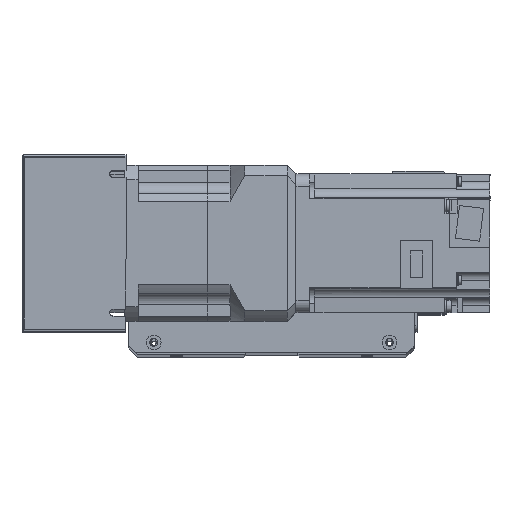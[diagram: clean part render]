
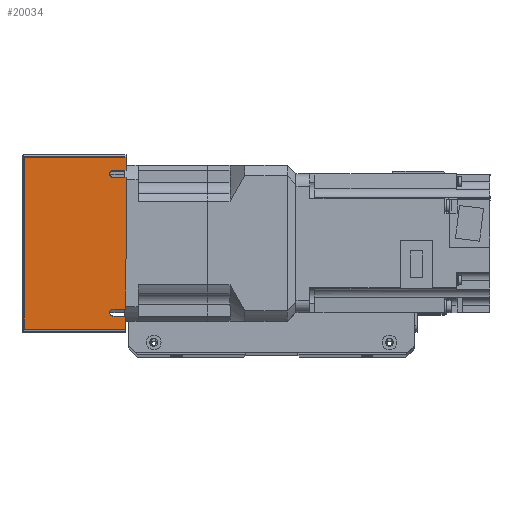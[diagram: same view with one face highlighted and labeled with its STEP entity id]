
A CAD part, top view. The second image highlights one B-rep face of the part: STEP entity #20034.
In plain terms, the highlighted planar face has unit normal (0, 0, 1) as drawn and (-1, 0, 0) by its records, which use the part's own axes.
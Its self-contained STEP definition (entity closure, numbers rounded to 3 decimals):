
#583=PLANE('',#21820);
#1671=LINE('',#32127,#3331);
#1677=LINE('',#32141,#3337);
#1689=LINE('',#32168,#3349);
#1699=LINE('',#32190,#3359);
#1707=LINE('',#32210,#3367);
#1708=LINE('',#32212,#3368);
#1709=LINE('',#32214,#3369);
#1710=LINE('',#32216,#3370);
#1711=LINE('',#32217,#3371);
#1712=LINE('',#32219,#3372);
#3331=VECTOR('',#25996,10.);
#3337=VECTOR('',#26006,10.);
#3349=VECTOR('',#26024,10.);
#3359=VECTOR('',#26038,10.);
#3367=VECTOR('',#26060,10.);
#3368=VECTOR('',#26061,10.);
#3369=VECTOR('',#26062,10.);
#3370=VECTOR('',#26063,10.);
#3371=VECTOR('',#26064,10.);
#3372=VECTOR('',#26067,10.);
#5357=FACE_OUTER_BOUND('',#6789,.T.);
#6789=EDGE_LOOP('',(#16126,#16127,#16128,#16129,#16130,#16131,#16132,#16133,
#16134,#16135,#16136,#16137));
#8221=CIRCLE('',#21815,2.);
#8225=CIRCLE('',#21821,2.);
#9654=VERTEX_POINT('',#32124);
#9655=VERTEX_POINT('',#32126);
#9660=VERTEX_POINT('',#32139);
#9661=VERTEX_POINT('',#32140);
#9672=VERTEX_POINT('',#32166);
#9673=VERTEX_POINT('',#32167);
#9682=VERTEX_POINT('',#32187);
#9683=VERTEX_POINT('',#32189);
#9688=VERTEX_POINT('',#32209);
#9689=VERTEX_POINT('',#32211);
#9690=VERTEX_POINT('',#32213);
#9691=VERTEX_POINT('',#32215);
#12001=EDGE_CURVE('',#9655,#9654,#1671,.T.);
#12007=EDGE_CURVE('',#9660,#9661,#1677,.T.);
#12019=EDGE_CURVE('',#9672,#9673,#1689,.T.);
#12029=EDGE_CURVE('',#9683,#9682,#1699,.T.);
#12031=EDGE_CURVE('',#9661,#9655,#8221,.T.);
#12041=EDGE_CURVE('',#9688,#9654,#1707,.T.);
#12042=EDGE_CURVE('',#9689,#9688,#1708,.T.);
#12043=EDGE_CURVE('',#9690,#9689,#1709,.T.);
#12044=EDGE_CURVE('',#9691,#9690,#1710,.T.);
#12045=EDGE_CURVE('',#9672,#9691,#1711,.T.);
#12046=EDGE_CURVE('',#9673,#9683,#8225,.T.);
#12047=EDGE_CURVE('',#9660,#9682,#1712,.T.);
#16126=ORIENTED_EDGE('',*,*,#12001,.T.);
#16127=ORIENTED_EDGE('',*,*,#12041,.F.);
#16128=ORIENTED_EDGE('',*,*,#12042,.F.);
#16129=ORIENTED_EDGE('',*,*,#12043,.F.);
#16130=ORIENTED_EDGE('',*,*,#12044,.F.);
#16131=ORIENTED_EDGE('',*,*,#12045,.F.);
#16132=ORIENTED_EDGE('',*,*,#12019,.T.);
#16133=ORIENTED_EDGE('',*,*,#12046,.T.);
#16134=ORIENTED_EDGE('',*,*,#12029,.T.);
#16135=ORIENTED_EDGE('',*,*,#12047,.F.);
#16136=ORIENTED_EDGE('',*,*,#12007,.T.);
#16137=ORIENTED_EDGE('',*,*,#12031,.T.);
#20034=ADVANCED_FACE('',(#5357),#583,.T.);
#21815=AXIS2_PLACEMENT_3D('',#32193,#26042,#26043);
#21820=AXIS2_PLACEMENT_3D('',#32208,#26058,#26059);
#21821=AXIS2_PLACEMENT_3D('',#32218,#26065,#26066);
#25996=DIRECTION('',(0.,0.,1.));
#26006=DIRECTION('',(0.,0.,-1.));
#26024=DIRECTION('',(0.,0.,-1.));
#26038=DIRECTION('',(0.,0.,1.));
#26042=DIRECTION('center_axis',(1.,0.,0.));
#26043=DIRECTION('ref_axis',(0.,0.,-1.));
#26058=DIRECTION('center_axis',(-1.,0.,0.));
#26059=DIRECTION('ref_axis',(0.,-1.,0.));
#26060=DIRECTION('',(0.,-1.,0.));
#26061=DIRECTION('',(0.,0.,1.));
#26062=DIRECTION('',(0.,1.,0.));
#26063=DIRECTION('',(0.,0.,-1.));
#26064=DIRECTION('',(0.,-1.,0.));
#26065=DIRECTION('center_axis',(1.,0.,0.));
#26066=DIRECTION('ref_axis',(0.,0.,-1.));
#26067=DIRECTION('',(0.,-1.,0.));
#32124=CARTESIAN_POINT('',(-120.5,42.,30.));
#32126=CARTESIAN_POINT('',(-120.5,42.,22.5));
#32127=CARTESIAN_POINT('',(-120.5,42.,16.304));
#32139=CARTESIAN_POINT('',(-120.5,38.,30.));
#32140=CARTESIAN_POINT('',(-120.5,38.,22.5));
#32141=CARTESIAN_POINT('',(-120.5,38.,11.25));
#32166=CARTESIAN_POINT('',(-120.5,-42.,30.));
#32167=CARTESIAN_POINT('',(-120.5,-42.,22.5));
#32168=CARTESIAN_POINT('',(-120.5,-42.,11.25));
#32187=CARTESIAN_POINT('',(-120.5,-38.,30.));
#32189=CARTESIAN_POINT('',(-120.5,-38.,22.5));
#32190=CARTESIAN_POINT('',(-120.5,-38.,16.169));
#32193=CARTESIAN_POINT('Origin',(-120.5,40.,22.5));
#32208=CARTESIAN_POINT('Origin',(-120.5,51.,0.));
#32209=CARTESIAN_POINT('',(-120.5,50.,30.));
#32210=CARTESIAN_POINT('',(-120.5,-51.,30.));
#32211=CARTESIAN_POINT('',(-120.5,50.,-29.));
#32212=CARTESIAN_POINT('',(-120.5,50.,0.));
#32213=CARTESIAN_POINT('',(-120.5,-50.,-29.));
#32214=CARTESIAN_POINT('',(-120.5,25.5,-29.));
#32215=CARTESIAN_POINT('',(-120.5,-50.,30.));
#32216=CARTESIAN_POINT('',(-120.5,-50.,0.));
#32217=CARTESIAN_POINT('',(-120.5,-51.,30.));
#32218=CARTESIAN_POINT('Origin',(-120.5,-40.,22.5));
#32219=CARTESIAN_POINT('',(-120.5,-51.,30.));
